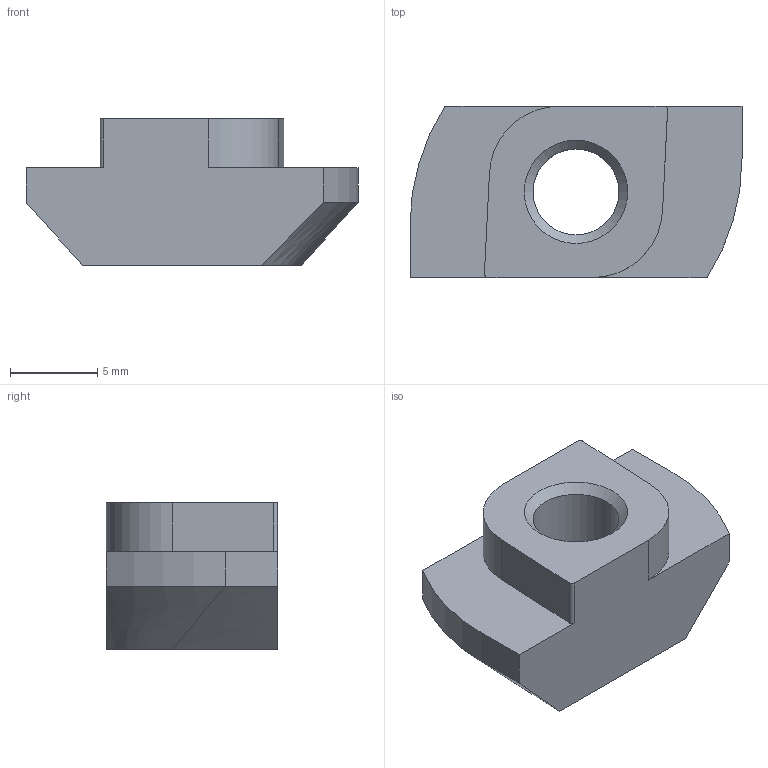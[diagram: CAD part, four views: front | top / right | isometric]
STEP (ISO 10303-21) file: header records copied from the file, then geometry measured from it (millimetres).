
FILE_DESCRIPTION((''),'2;1');
FILE_NAME('E:\catalogue and flyer\Profile catalogue 2015\Accessories JE info\Accessories-JE step file 31MAr16\JE-RN6-10.stp','2016-03-31T16:38:39',('h029'),(''),'Autodesk Inventor 11','Autodesk Inventor 11','');
FILE_SCHEMA(('AUTOMOTIVE_DESIGN { 1 0 10303 214 1 1 1 1 }'));
Length unit declared in the file: millimetre
Products named in the file (1): JE-RN6-10
Bounding box: 19 x 9.8 x 8.4 mm (x, y, z)
Volume: 973.9 mm3; surface area: 785.1 mm2
Topology: 1 solids, 1 shells, 22 faces, 58 edges, 38 vertices
Faces by surface type: plane 10, cylinder 6, bspline 5, cone 1
Entity records: 803 total; most frequent: CARTESIAN_POINT 249, ORIENTED_EDGE 110, DIRECTION 105, EDGE_CURVE 55, VERTEX_POINT 37, AXIS2_PLACEMENT_3D 35, VECTOR 35, LINE 35
